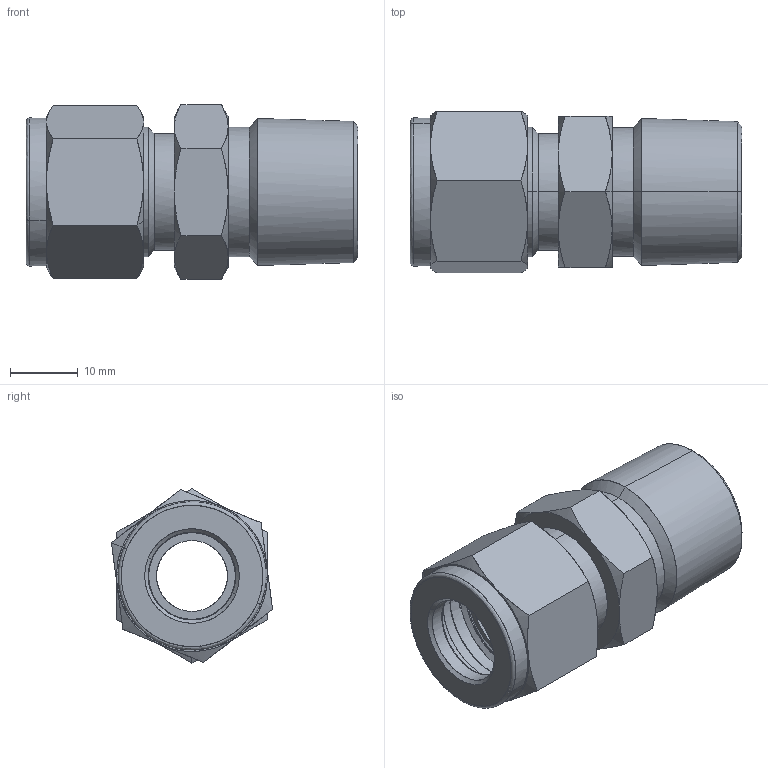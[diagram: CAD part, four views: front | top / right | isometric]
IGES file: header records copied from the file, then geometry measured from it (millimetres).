
Start section: Comment
Global section: file name: SMC8-8N.igs; native system:  By UGS Corp.; preprocessor: XPlus GENERIC/IGES 3.0; author: Author; organization: Title; date: 20100113.144948; units: millimetre
Bounding box: 48.84 x 23.72 x 25.63 mm (x, y, z)
Surface area: 7632.9 mm2 (no closed solid volume)
Topology: 0 solids, 0 shells, 116 faces, 687 edges, 684 vertices
Faces by surface type: bspline 116
